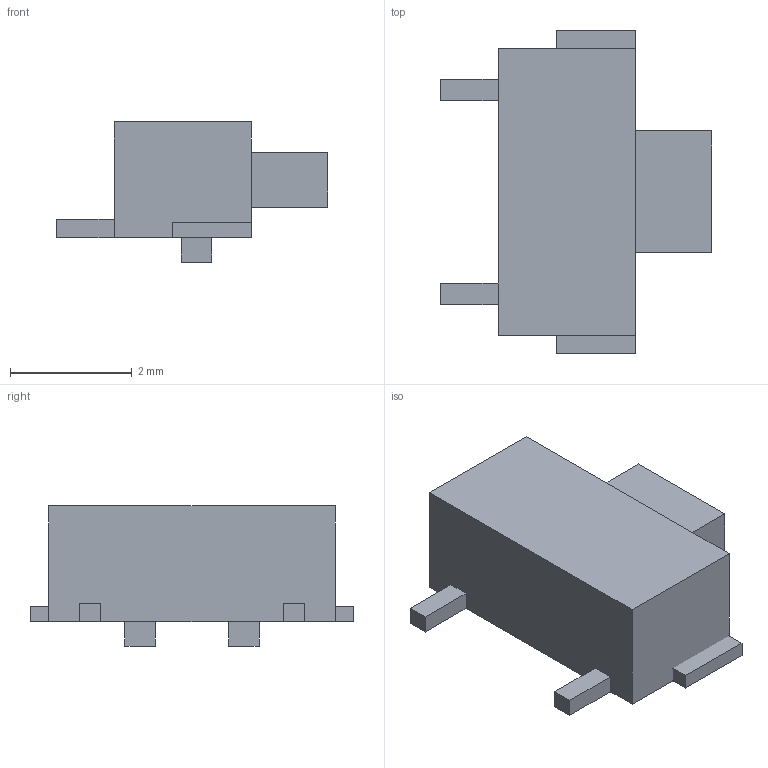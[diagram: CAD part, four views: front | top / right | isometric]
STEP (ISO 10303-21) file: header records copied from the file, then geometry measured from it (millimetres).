
FILE_DESCRIPTION(('TS24CA side-actuated tact switch'),'2;1');
FILE_NAME('SW_TS24CA_2x4_SideAct.step','2026-09-12T00:00:00',('Pilot Kit'),(''), 'gen_3d_ts24ca.py','','');
FILE_SCHEMA(('AUTOMOTIVE_DESIGN { 1 0 10303 214 1 1 1 1 }'));
Length unit declared in the file: millimetre
Products named in the file (1): SW_TS24CA_2x4_SideAct
Bounding box: 4.45 x 5.3 x 2.3 mm (x, y, z)
Volume: 23.4 mm3; surface area: 71.7 mm2
Topology: 8 solids, 8 shells, 48 faces, 96 edges, 64 vertices
Faces by surface type: plane 48
Entity records: 1215 total; most frequent: CARTESIAN_POINT 209, DIRECTION 194, ORIENTED_EDGE 192, VECTOR 96, LINE 96, EDGE_CURVE 96, VERTEX_POINT 64, AXIS2_PLACEMENT_3D 49
